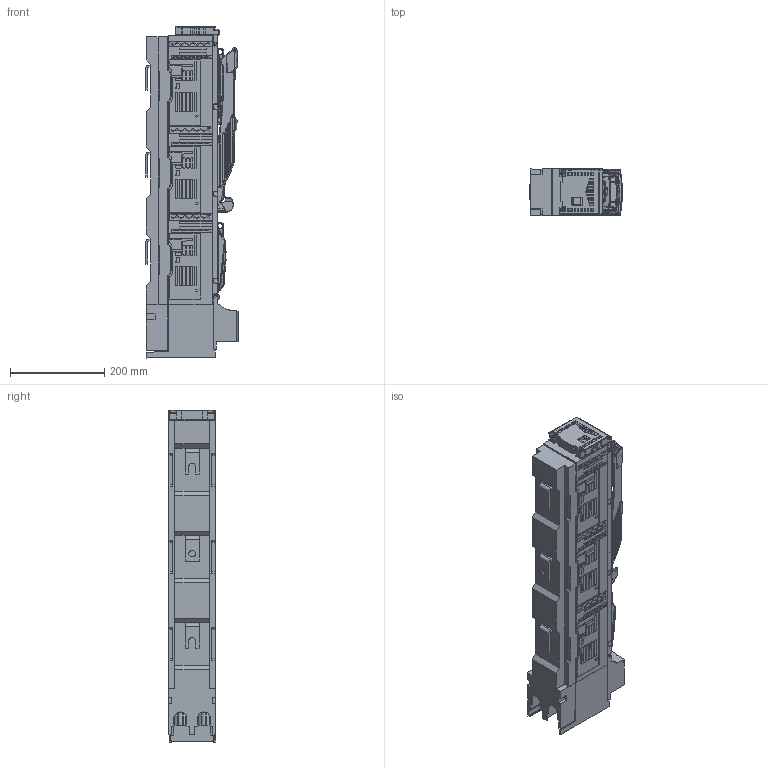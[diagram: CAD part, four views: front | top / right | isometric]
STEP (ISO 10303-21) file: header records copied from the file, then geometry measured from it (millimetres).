
FILE_DESCRIPTION(/* description */ (''),/* implementation_level */ '2;1');
FILE_NAME(/* name */ 'smartARS 2-6-V.stp',/* time_stamp */ '2019-11-19T14:07:33+01:00',/* author */ (''),/* organization */ (''),/* preprocessor_version */ 'ST-DEVELOPER v16.7',/* originating_system */ 'SIEMENS PLM Software NX 1847',/* authorisation */ '');
FILE_SCHEMA (('AUTOMOTIVE_DESIGN { 1 0 10303 214 3 1 1 1 }'));
Products named in the file (1): 710_2B942B3A7w1h
Bounding box: 196.47 x 99.4 x 705.59 mm (x, y, z)
Volume: 8870425.1 mm3; surface area: 833971.7 mm2
Topology: 2 solids, 25 shells, 8090 faces, 21368 edges, 13411 vertices
Faces by surface type: plane 3273, bspline 2488, cylinder 1311, extrusion 495, torus 206, sphere 158, cone 157, revolution 2
Full cylindrical faces by diameter (mm): 3 x7, 3.5 x5, 3.7 x4, 4.1 x1, 5 x2, 6.5 x1, 7.9 x2, 8 x1, 9.5 x4, 9.6 x2, 14 x1
Entity records: 352426 total; most frequent: CARTESIAN_POINT 173214, ORIENTED_EDGE 42272, DIRECTION 29881, EDGE_CURVE 21136, VERTEX_POINT 13392, VECTOR 10363, LINE 9868, AXIS2_PLACEMENT_3D 9758
